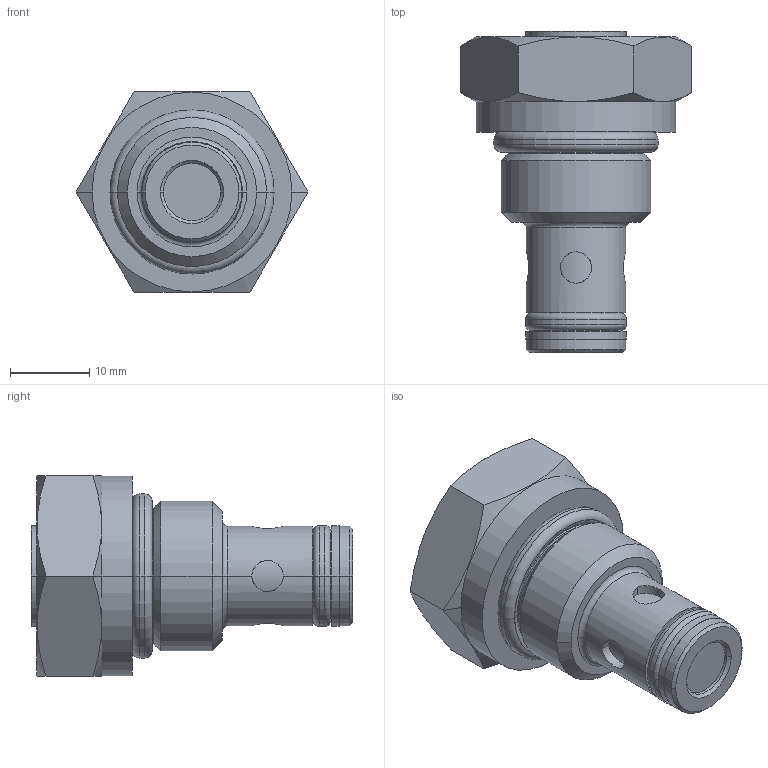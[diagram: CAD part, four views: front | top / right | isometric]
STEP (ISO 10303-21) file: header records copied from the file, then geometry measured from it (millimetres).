
FILE_DESCRIPTION((''),'2;1');
FILE_NAME('CVFB-08-_-_-OUT1','2015-09-04T',('torrese'),(''),'PRO/ENGINEER BY PARAMETRIC TECHNOLOGY CORPORATION, 2015070','PRO/ENGINEER BY PARAMETRIC TECHNOLOGY CORPORATION, 2015070','');
FILE_SCHEMA(('CONFIG_CONTROL_DESIGN','GEOMETRIC_VALIDATION_PROPERTIES_MIM'));
Length unit declared in the file: inch
Products named in the file (1): CVFB-08-_-_-OUT1
Bounding box: 29.33 x 40.72 x 25.4 mm (x, y, z)
Volume: 11747.6 mm3; surface area: 3919.1 mm2
Topology: 1 solids, 1 shells, 95 faces, 198 edges, 118 vertices
Faces by surface type: cylinder 42, plane 25, cone 14, torus 14
Entity records: 6445 total; most frequent: CARTESIAN_POINT 3237, DIRECTION 446, ORIENTED_EDGE 396, PRESENTATION_STYLE_ASSIGNMENT 261, STYLED_ITEM 199, CURVE_STYLE 198, EDGE_CURVE 198, AXIS2_PLACEMENT_3D 187
